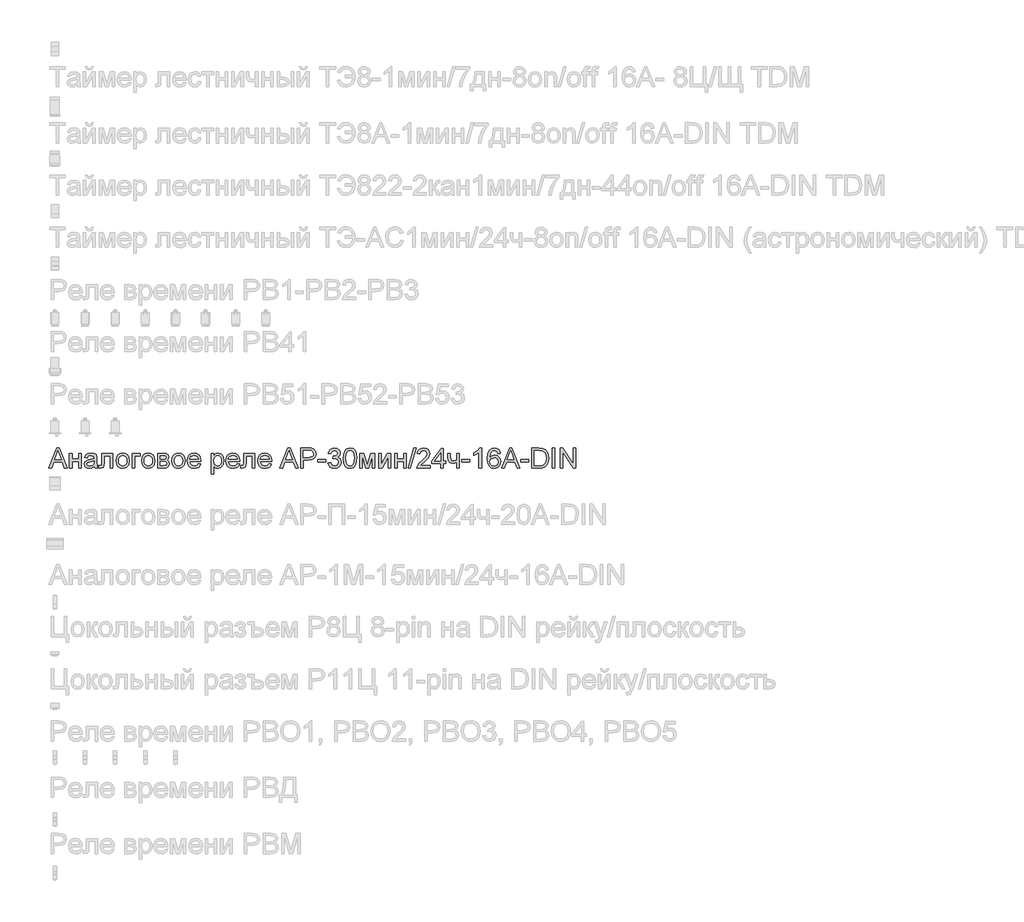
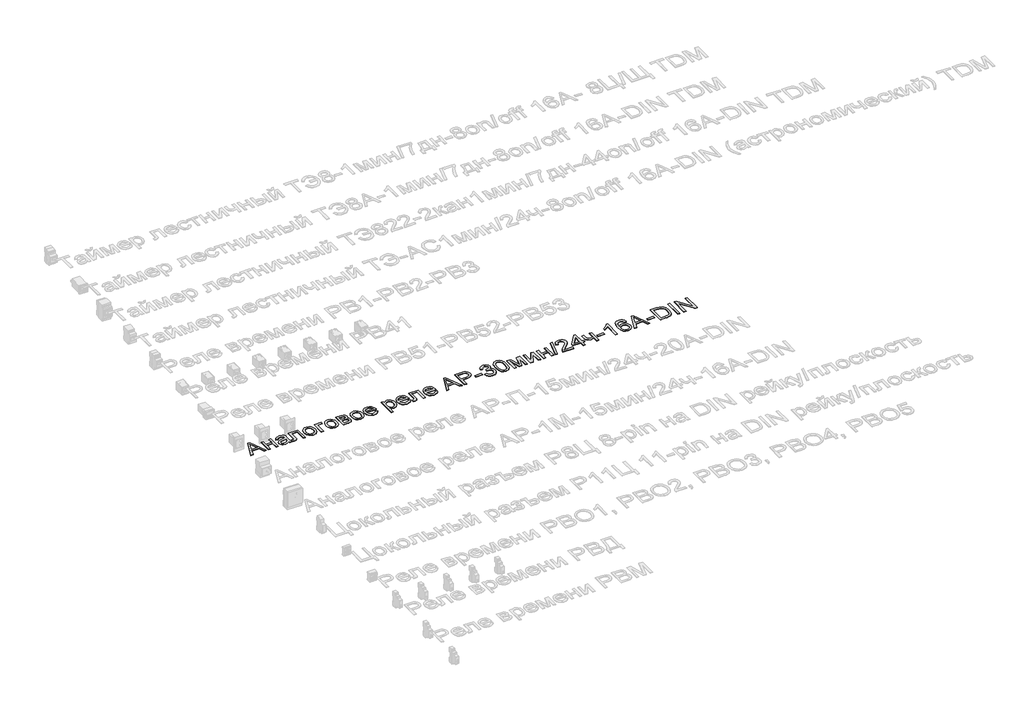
# One storey, part 23 of 34: 1 proxy.
"""IFC4 building model written with IfcOpenShell, lengths in millimetres."""

from ifc_helpers import new_model, si_unit, frame, origin, place, context, project, spatial, polyline, outline, extrude, element, save

model = new_model("IFC4")

# Units and contexts
model_context = context("Model", 3, world=origin())
ifc_project = project(units=[si_unit("LENGTHUNIT", "METRE", prefix="MILLI")], contexts=[model_context])

# Site, building, storey
site = spatial("IfcSite", under=ifc_project)
building = spatial("IfcBuilding", under=site)
storey = spatial("IfcBuildingStorey", under=building, Name="Этаж 01", Elevation=0.0)

# Proxy
placement = place(None, origin())
element("IfcBuildingElementProxy", 1, Name="Надпись на модели 1", ObjectType="Надпись на модели 1", at=placement, inside=storey, context=model_context, shape_type="SweptSolid", body=[
    extrude(outline(polyline([(-19050.7112385, 15956.235284), (-19010.612101, 16056.6915941), (-18999.9189977, 16056.6915941), (-18959.8198602, 15956.235284), (-18973.0881375, 15956.235284), (-18984.5905813, 15987.6278809), (-19025.965043, 15987.6278809), (-19037.4429612, 15956.235284), (-19050.7112385, 15956.235284)]), holes=[polyline([(-19021.3542553, 16000.1849197), (-18989.1768435, 16000.1849197), (-18998.2267405, 16024.8820643), (-19005.2655494, 16044.1345554), (-19011.5195433, 16027.0403053), (-19021.3542553, 16000.1849197)])]), frame((0.0, 0.0, 40.0), z_axis=(0.0, 0.0, 1.0), x_axis=(1.0, 0.0, 0.0)), (0.0, 0.0, 1.0), 2.0),
    extrude(outline(polyline([(-18947.97406, 16030.0078868), (-18935.4170212, 16030.0078868), (-18935.4170212, 16001.7545495), (-18902.4547945, 16001.7545495), (-18902.4547945, 16030.0078868), (-18889.8977557, 16030.0078868), (-18889.8977557, 15956.235284), (-18902.4547945, 15956.235284), (-18902.4547945, 15989.1975108), (-18935.4170212, 15989.1975108), (-18935.4170212, 15956.235284), (-18947.97406, 15956.235284), (-18947.97406, 16030.0078868)])), frame((0.0, 0.0, 40.0), z_axis=(0.0, 0.0, 1.0), x_axis=(1.0, 0.0, 0.0)), (0.0, 0.0, 1.0), 2.0),
    extrude(outline(polyline([(-18823.9733022, 15965.6530631), (-18836.1501962, 15957.1427262), (-18849.6024145, 15954.6656541), (-18860.0962484, 15956.1555762), (-18867.8370987, 15960.6253425), (-18872.6103676, 15967.4127653), (-18874.2014572, 15975.8556571), (-18871.7979615, 15985.7884709), (-18865.482654, 15992.998958), (-18856.6902743, 15997.1192364), (-18845.8254927, 15999.0076973), (-18824.0468786, 16003.3241794), (-18823.9733022, 16006.1200825), (-18827.4313929, 16015.3907088), (-18841.3128069, 16019.0204778), (-18854.0169984, 16016.6047194), (-18860.0747886, 16008.0330689), (-18872.6318274, 16009.6026988), (-18867.1994366, 16021.8654319), (-18856.2610786, 16029.0513936), (-18839.6941261, 16031.5775166), (-18824.4760742, 16029.3456992), (-18815.8798983, 16023.7416301), (-18812.0294001, 16015.2190306), (-18811.4162634, 16004.2316216), (-18811.4162634, 15988.6088996), (-18810.7786013, 15966.7934973), (-18808.2770037, 15956.235284), (-18820.8340425, 15956.235284), (-18823.9733022, 15965.6530631)]), holes=[polyline([(-18823.9733022, 15990.7671406), (-18844.2313374, 15986.9166424), (-18855.0348053, 15984.8810287), (-18859.9276358, 15981.5700907), (-18861.6444185, 15976.7385739), (-18857.9042849, 15969.9450197), (-18846.9291387, 15967.2226929), (-18834.2249471, 15970.2270625), (-18826.0334413, 15977.4988633), (-18824.0468786, 15987.210948), (-18823.9733022, 15990.7671406)])]), frame((0.0, 0.0, 40.0), z_axis=(0.0, 0.0, 1.0), x_axis=(1.0, 0.0, 0.0)), (0.0, 0.0, 1.0), 2.0),
    extrude(outline(polyline([(-18787.8718157, 16030.0078868), (-18731.3651412, 16030.0078868), (-18731.3651412, 15956.3088604), (-18743.92218, 15956.3088604), (-18743.92218, 16017.450848), (-18775.3147769, 16017.450848), (-18775.3147769, 15982.2568038), (-18776.1609055, 15966.0209451), (-18780.8084814, 15959.1660772), (-18791.7958903, 15956.235284), (-18801.9984843, 15956.8729461), (-18801.9984843, 15968.7923228), (-18796.3821525, 15968.7923228), (-18790.7045071, 15969.564875), (-18788.4359014, 15972.0174216), (-18787.8718157, 15982.9680423), (-18787.8718157, 16030.0078868)])), frame((0.0, 0.0, 40.0), z_axis=(0.0, 0.0, 1.0), x_axis=(1.0, 0.0, 0.0)), (0.0, 0.0, 1.0), 2.0),
    extrude(outline(polyline([(-18715.6688428, 15993.1215854), (-18712.9526474, 16010.9086798), (-18704.8040612, 16023.4105363), (-18694.7363573, 16029.5357715), (-18682.6820905, 16031.5775166), (-18669.4904553, 16029.0912475), (-18658.9537019, 16021.63244), (-18652.0467174, 16009.7897054), (-18649.7443892, 15994.151655), (-18653.8156167, 15971.8089551), (-18665.6736796, 15959.1660772), (-18682.6820905, 15954.6656541), (-18696.0331413, 15957.1427262), (-18706.557632, 15964.5739426), (-18713.3910401, 15976.6649975), (-18715.6688428, 15993.1215854)]), holes=[polyline([(-18703.111804, 15993.1461108), (-18701.6586701, 15981.7816229), (-18697.2992685, 15973.6851533), (-18690.7387062, 15968.838308), (-18682.6820905, 15967.2226929), (-18674.6622631, 15968.8475051), (-18668.1139635, 15973.7219415), (-18663.7545619, 15981.92571), (-18662.301428, 15993.5385183), (-18663.7637589, 16004.5719125), (-18668.1507517, 16012.5580175), (-18674.7082483, 16017.4048627), (-18682.6820905, 16019.0204778), (-18690.7387062, 16017.4109941), (-18697.2992685, 16012.5825429), (-18701.6586701, 16004.5044674), (-18703.111804, 15993.1461108)])]), frame((0.0, 0.0, 40.0), z_axis=(0.0, 0.0, 1.0), x_axis=(1.0, 0.0, 0.0)), (0.0, 0.0, 1.0), 2.0),
    extrude(outline(polyline([(-18635.6177206, 16030.0078868), (-18594.8073446, 16030.0078868), (-18594.8073446, 16017.450848), (-18623.0606819, 16017.450848), (-18623.0606819, 15956.235284), (-18635.6177206, 15956.235284), (-18635.6177206, 16030.0078868)])), frame((0.0, 0.0, 40.0), z_axis=(0.0, 0.0, 1.0), x_axis=(1.0, 0.0, 0.0)), (0.0, 0.0, 1.0), 2.0),
    extrude(outline(polyline([(-18588.5288253, 15993.1215854), (-18585.8126299, 16010.9086798), (-18577.6640437, 16023.4105363), (-18567.5963397, 16029.5357715), (-18555.542073, 16031.5775166), (-18542.3504378, 16029.0912475), (-18531.8136843, 16021.63244), (-18524.9066999, 16009.7897054), (-18522.6043717, 15994.151655), (-18526.6755991, 15971.8089551), (-18538.5336621, 15959.1660772), (-18555.542073, 15954.6656541), (-18568.8931238, 15957.1427262), (-18579.4176145, 15964.5739426), (-18586.2510226, 15976.6649975), (-18588.5288253, 15993.1215854)]), holes=[polyline([(-18575.9717865, 15993.1461108), (-18574.5186526, 15981.7816229), (-18570.159251, 15973.6851533), (-18563.5986887, 15968.838308), (-18555.542073, 15967.2226929), (-18547.5222455, 15968.8475051), (-18540.973946, 15973.7219415), (-18536.6145444, 15981.92571), (-18535.1614105, 15993.5385183), (-18536.6237414, 16004.5719125), (-18541.0107342, 16012.5580175), (-18547.5682308, 16017.4048627), (-18555.542073, 16019.0204778), (-18563.5986887, 16017.4109941), (-18570.159251, 16012.5825429), (-18574.5186526, 16004.5044674), (-18575.9717865, 15993.1461108)])]), frame((0.0, 0.0, 40.0), z_axis=(0.0, 0.0, 1.0), x_axis=(1.0, 0.0, 0.0)), (0.0, 0.0, 1.0), 2.0),
    extrude(outline(polyline([(-18508.4777031, 16030.0078868), (-18480.8129771, 16030.0078868), (-18465.6439761, 16028.3278923), (-18457.1091138, 16022.1720003), (-18453.5406585, 16011.4421087), (-18455.6988995, 16002.7233055), (-18462.1981481, 15996.5060997), (-18453.7613877, 15989.7002828), (-18450.4013988, 15977.8667453), (-18452.528983, 15968.2956821), (-18457.5873604, 15961.5573102), (-18465.5949252, 15957.5657905), (-18476.5700714, 15956.235284), (-18508.4777031, 15956.235284), (-18508.4777031, 16030.0078868)]), holes=[polyline([(-18495.9206643, 15968.7923228), (-18480.5186715, 15968.7923228), (-18466.8579867, 15971.0609284), (-18462.9584376, 15978.8968149), (-18465.1044159, 15984.9423424), (-18470.6962222, 15988.4617468), (-18481.7449448, 15989.1975108), (-18495.9206643, 15989.1975108), (-18495.9206643, 15968.7923228)]), polyline([(-18495.9206643, 16001.7545495), (-18483.5107784, 16001.7545495), (-18473.2713962, 16002.3922117), (-18468.2927265, 16004.9428602), (-18466.0976973, 16009.5536478), (-18469.9481955, 16015.7095399), (-18483.1183709, 16017.450848), (-18495.9206643, 16017.450848), (-18495.9206643, 16001.7545495)])]), frame((0.0, 0.0, 40.0), z_axis=(0.0, 0.0, 1.0), x_axis=(1.0, 0.0, 0.0)), (0.0, 0.0, 1.0), 2.0),
    extrude(outline(polyline([(-18437.84436, 15993.1215854), (-18435.1281646, 16010.9086798), (-18426.9795784, 16023.4105363), (-18416.9118745, 16029.5357715), (-18404.8576078, 16031.5775166), (-18391.6659726, 16029.0912475), (-18381.1292191, 16021.63244), (-18374.2222346, 16009.7897054), (-18371.9199065, 15994.151655), (-18375.9911339, 15971.8089551), (-18387.8491969, 15959.1660772), (-18404.8576078, 15954.6656541), (-18418.2086585, 15957.1427262), (-18428.7331493, 15964.5739426), (-18435.5665573, 15976.6649975), (-18437.84436, 15993.1215854)]), holes=[polyline([(-18425.2873213, 15993.1461108), (-18423.8341874, 15981.7816229), (-18419.4747857, 15973.6851533), (-18412.9142235, 15968.838308), (-18404.8576078, 15967.2226929), (-18396.8377803, 15968.8475051), (-18390.2894808, 15973.7219415), (-18385.9300791, 15981.92571), (-18384.4769453, 15993.5385183), (-18385.9392762, 16004.5719125), (-18390.326269, 16012.5580175), (-18396.8837655, 16017.4048627), (-18404.8576078, 16019.0204778), (-18412.9142235, 16017.4109941), (-18419.4747857, 16012.5825429), (-18423.8341874, 16004.5044674), (-18425.2873213, 15993.1461108)])]), frame((0.0, 0.0, 40.0), z_axis=(0.0, 0.0, 1.0), x_axis=(1.0, 0.0, 0.0)), (0.0, 0.0, 1.0), 2.0),
    extrude(outline(polyline([(-18306.1426058, 15978.2101018), (-18293.8308216, 15976.640472), (-18298.2668654, 15967.3637143), (-18305.3455281, 15960.4291387), (-18314.9073943, 15956.1065253), (-18326.7930484, 15954.6656541), (-18341.5267223, 15957.1519233), (-18352.8636191, 15964.6107308), (-18360.0925003, 15976.5576985), (-18362.5021274, 15992.5084487), (-18360.0679749, 16008.9956935), (-18352.7655173, 16021.3258717), (-18341.5819046, 16029.0146054), (-18327.5042869, 16031.5775166), (-18313.865062, 16029.0207367), (-18302.9665579, 16021.3503971), (-18295.8204501, 16009.0447444), (-18293.4384142, 15992.5820251), (-18293.5119906, 15989.1975108), (-18349.9450886, 15989.1975108), (-18347.7715192, 15979.7981258), (-18342.7223388, 15972.8880756), (-18335.4352096, 15968.6390386), (-18326.5477938, 15967.2226929), (-18314.2360096, 15969.8469178), (-18306.1426058, 15978.2101018)]), holes=[polyline([(-18349.9450886, 16001.7545495), (-18305.995453, 16001.7545495), (-18311.0231736, 16013.1343659), (-18318.3440253, 16017.5489499), (-18327.5533379, 16019.0204778), (-18343.0166444, 16014.323851), (-18347.8818838, 16008.8332123), (-18349.9450886, 16001.7545495)])]), frame((0.0, 0.0, 40.0), z_axis=(0.0, 0.0, 1.0), x_axis=(1.0, 0.0, 0.0)), (0.0, 0.0, 1.0), 2.0),
    extrude(outline(polyline([(-18241.6406293, 15927.9819468), (-18241.6406293, 16030.0078868), (-18229.0835905, 16030.0078868), (-18229.0835905, 16017.6961027), (-18220.4015754, 16028.1071631), (-18208.6784025, 16031.5775166), (-18192.7613748, 16026.7214743), (-18182.3625771, 16013.036264), (-18178.8554354, 15993.6856711), (-18182.8162982, 15973.3417968), (-18194.318742, 15959.4849083), (-18210.1989814, 15954.6656541), (-18221.1250767, 15957.890753), (-18229.0835905, 15966.0454705), (-18229.0835905, 15927.9819468), (-18241.6406293, 15927.9819468)]), holes=[polyline([(-18229.0835905, 15992.5329742), (-18227.7254928, 15981.2757851), (-18223.6511997, 15973.4031104), (-18217.6393948, 15968.7677973), (-18210.4687615, 15967.2226929), (-18203.1816324, 15968.8229796), (-18197.0165432, 15973.6238396), (-18192.8134915, 15981.7846886), (-18191.4124742, 15993.4649419), (-18192.7797689, 16004.6608173), (-18196.8816532, 16012.6438566), (-18202.8842611, 16017.4263225), (-18209.9537267, 16019.0204778), (-18217.0507836, 16017.325155), (-18223.2833177, 16012.2391864), (-18227.6335223, 16003.9219876), (-18229.0835905, 15992.5329742)])]), frame((0.0, 0.0, 40.0), z_axis=(0.0, 0.0, 1.0), x_axis=(1.0, 0.0, 0.0)), (0.0, 0.0, 1.0), 2.0),
    extrude(outline(polyline([(-18113.0781347, 15978.2101018), (-18100.7663506, 15976.640472), (-18105.2023943, 15967.3637143), (-18112.281057, 15960.4291387), (-18121.8429232, 15956.1065253), (-18133.7285773, 15954.6656541), (-18148.4622513, 15957.1519233), (-18159.7991481, 15964.6107308), (-18167.0280293, 15976.5576985), (-18169.4376563, 15992.5084487), (-18167.0035038, 16008.9956935), (-18159.7010462, 16021.3258717), (-18148.5174336, 16029.0146054), (-18134.4398159, 16031.5775166), (-18120.8005909, 16029.0207367), (-18109.9020868, 16021.3503971), (-18102.755979, 16009.0447444), (-18100.3739431, 15992.5820251), (-18100.4475195, 15989.1975108), (-18156.8806176, 15989.1975108), (-18154.7070481, 15979.7981258), (-18149.6578677, 15972.8880756), (-18142.3707385, 15968.6390386), (-18133.4833227, 15967.2226929), (-18121.1715386, 15969.8469178), (-18113.0781347, 15978.2101018)]), holes=[polyline([(-18156.8806176, 16001.7545495), (-18112.9309819, 16001.7545495), (-18117.9587025, 16013.1343659), (-18125.2795542, 16017.5489499), (-18134.4888668, 16019.0204778), (-18149.9521733, 16014.323851), (-18154.8174127, 16008.8332123), (-18156.8806176, 16001.7545495)])]), frame((0.0, 0.0, 40.0), z_axis=(0.0, 0.0, 1.0), x_axis=(1.0, 0.0, 0.0)), (0.0, 0.0, 1.0), 2.0),
    extrude(outline(polyline([(-18081.538385, 16030.0078868), (-18025.0317105, 16030.0078868), (-18025.0317105, 15956.3088604), (-18037.5887493, 15956.3088604), (-18037.5887493, 16017.450848), (-18068.9813462, 16017.450848), (-18068.9813462, 15982.2568038), (-18069.8274748, 15966.0209451), (-18074.4750507, 15959.1660772), (-18085.4624596, 15956.235284), (-18095.6650536, 15956.8729461), (-18095.6650536, 15968.7923228), (-18090.0487218, 15968.7923228), (-18084.3710763, 15969.564875), (-18082.1024707, 15972.0174216), (-18081.538385, 15982.9680423), (-18081.538385, 16030.0078868)])), frame((0.0, 0.0, 40.0), z_axis=(0.0, 0.0, 1.0), x_axis=(1.0, 0.0, 0.0)), (0.0, 0.0, 1.0), 2.0),
    extrude(outline(polyline([(-17954.5455202, 15978.2101018), (-17942.2337361, 15976.640472), (-17946.6697798, 15967.3637143), (-17953.7484426, 15960.4291387), (-17963.3103088, 15956.1065253), (-17975.1959629, 15954.6656541), (-17989.9296368, 15957.1519233), (-18001.2665336, 15964.6107308), (-18008.4954148, 15976.5576985), (-18010.9050419, 15992.5084487), (-18008.4708894, 16008.9956935), (-18001.1684318, 16021.3258717), (-17989.9848191, 16029.0146054), (-17975.9072014, 16031.5775166), (-17962.2679764, 16029.0207367), (-17951.3694723, 16021.3503971), (-17944.2233646, 16009.0447444), (-17941.8413287, 15992.5820251), (-17941.9149051, 15989.1975108), (-17998.3480031, 15989.1975108), (-17996.1744337, 15979.7981258), (-17991.1252533, 15972.8880756), (-17983.8381241, 15968.6390386), (-17974.9507082, 15967.2226929), (-17962.6389241, 15969.8469178), (-17954.5455202, 15978.2101018)]), holes=[polyline([(-17998.3480031, 16001.7545495), (-17954.3983674, 16001.7545495), (-17959.426088, 16013.1343659), (-17966.7469397, 16017.5489499), (-17975.9562523, 16019.0204778), (-17991.4195589, 16014.323851), (-17996.2847983, 16008.8332123), (-17998.3480031, 16001.7545495)])]), frame((0.0, 0.0, 40.0), z_axis=(0.0, 0.0, 1.0), x_axis=(1.0, 0.0, 0.0)), (0.0, 0.0, 1.0), 2.0),
    extrude(outline(polyline([(-17900.1725613, 15956.235284), (-17860.0734239, 16056.6915941), (-17849.3803205, 16056.6915941), (-17809.2811831, 15956.235284), (-17822.5494604, 15956.235284), (-17834.0519041, 15987.6278809), (-17875.4263658, 15987.6278809), (-17886.904284, 15956.235284), (-17900.1725613, 15956.235284)]), holes=[polyline([(-17870.8155781, 16000.1849197), (-17838.6381663, 16000.1849197), (-17847.6880634, 16024.8820643), (-17854.7268722, 16044.1345554), (-17860.9808661, 16027.0403053), (-17870.8155781, 16000.1849197)])]), frame((0.0, 0.0, 40.0), z_axis=(0.0, 0.0, 1.0), x_axis=(1.0, 0.0, 0.0)), (0.0, 0.0, 1.0), 2.0),
    extrude(outline(polyline([(-17795.865753, 15956.235284), (-17795.865753, 16056.6915941), (-17758.6360951, 16056.6915941), (-17743.6265097, 16055.735101), (-17731.4250902, 16051.0384742), (-17723.5156273, 16041.3263895), (-17720.5235204, 16027.6289165), (-17722.5438057, 16015.7892476), (-17728.6046615, 16005.9238788), (-17739.9384927, 15999.2652147), (-17757.7777037, 15997.04566), (-17783.3087142, 15997.04566), (-17783.3087142, 15956.235284), (-17795.865753, 15956.235284)]), holes=[polyline([(-17783.3087142, 16009.6026988), (-17757.0419398, 16009.6026988), (-17738.5497381, 16014.2134864), (-17734.4478539, 16019.7623732), (-17733.0805591, 16027.1874581), (-17736.305658, 16037.5862559), (-17744.7792066, 16043.2761641), (-17757.3362453, 16044.1345554), (-17783.3087142, 16044.1345554), (-17783.3087142, 16009.6026988)])]), frame((0.0, 0.0, 40.0), z_axis=(0.0, 0.0, 1.0), x_axis=(1.0, 0.0, 0.0)), (0.0, 0.0, 1.0), 2.0),
    extrude(outline(polyline([(-17711.1057413, 15986.0582511), (-17711.1057413, 15998.6152898), (-17671.8649951, 15998.6152898), (-17671.8649951, 15986.0582511), (-17711.1057413, 15986.0582511)])), frame((0.0, 0.0, 40.0), z_axis=(0.0, 0.0, 1.0), x_axis=(1.0, 0.0, 0.0)), (0.0, 0.0, 1.0), 2.0),
    extrude(outline(polyline([(-17660.8775862, 15982.9189914), (-17648.3205474, 15984.4886212), (-17641.3921032, 15971.2693949), (-17628.4303942, 15967.2226929), (-17619.8219556, 15968.6145131), (-17613.1755542, 15972.7899738), (-17607.5101714, 15986.5732859), (-17613.1265032, 15999.5595203), (-17627.4003247, 16004.6976055), (-17636.2049671, 16003.3241794), (-17634.8070155, 16015.8812181), (-17632.7959272, 16015.7340653), (-17618.5466313, 16019.3393089), (-17613.8009536, 16023.9133084), (-17612.219061, 16030.4248197), (-17616.8053232, 16040.247269), (-17628.626598, 16044.1345554), (-17640.5950255, 16040.2104808), (-17646.7509176, 16028.4382569), (-17659.3079564, 16030.0078868), (-17655.6107423, 16041.2834699), (-17649.031786, 16049.7018362), (-17640.0309398, 16054.9441547), (-17629.0680564, 16056.6915941), (-17613.9235809, 16053.2457661), (-17603.3285794, 16043.827987), (-17599.6620222, 16031.1605837), (-17603.1446384, 16019.5845636), (-17613.4453343, 16011.2704305), (-17599.7601241, 16002.6865173), (-17594.9531327, 15986.3525567), (-17597.3566284, 15974.114349), (-17604.5671155, 15963.8872295), (-17615.4502912, 15956.971048), (-17628.8718526, 15954.6656541), (-17641.0119585, 15956.6338228), (-17650.8957214, 15962.5383288), (-17657.7689834, 15971.5698318), (-17660.8775862, 15982.9189914)])), frame((0.0, 0.0, 40.0), z_axis=(0.0, 0.0, 1.0), x_axis=(1.0, 0.0, 0.0)), (0.0, 0.0, 1.0), 2.0),
    extrude(outline(polyline([(-17583.9657238, 16005.6540987), (-17580.2746411, 16034.5573608), (-17569.3117576, 16051.2224151), (-17551.003497, 16056.6915941), (-17536.3372681, 16053.4542326), (-17526.2082505, 16044.1222926), (-17520.3221386, 16029.25986), (-17518.0412702, 16005.6540987), (-17521.6955647, 15976.8734639), (-17532.62166, 15960.1716213), (-17540.8530196, 15956.0421459), (-17551.003497, 15954.6656541), (-17564.0510451, 15957.0568871), (-17573.9593335, 15964.230586), (-17581.4641262, 15981.2206028), (-17583.9657238, 16005.6540987)]), holes=[polyline([(-17571.408685, 16005.6786241), (-17569.937157, 15985.9264267), (-17565.5225731, 15974.4944937), (-17558.9497481, 15969.0406431), (-17551.003497, 15967.2226929), (-17543.0572459, 15969.0467745), (-17536.4844209, 15974.5190192), (-17532.069837, 15985.9570835), (-17530.598309, 16005.6786241), (-17532.020786, 16024.9862975), (-17536.2882172, 16036.5071353), (-17542.8487794, 16042.2277004), (-17551.1506498, 16044.1345554), (-17559.0110617, 16042.4545609), (-17565.3263693, 16037.4145776), (-17569.8881061, 16025.1763699), (-17571.408685, 16005.6786241)])]), frame((0.0, 0.0, 40.0), z_axis=(0.0, 0.0, 1.0), x_axis=(1.0, 0.0, 0.0)), (0.0, 0.0, 1.0), 2.0),
    extrude(outline(polyline([(-17503.9146016, 16030.0078868), (-17482.3076658, 16030.0078868), (-17465.6548741, 15970.9505638), (-17447.7022327, 16030.0078868), (-17427.0027391, 16030.0078868), (-17427.0027391, 15956.235284), (-17439.5597779, 15956.235284), (-17439.5597779, 16015.6359635), (-17457.6105211, 15956.235284), (-17474.0916345, 15956.235284), (-17491.3575628, 16018.4809176), (-17491.3575628, 15956.235284), (-17503.9146016, 15956.235284), (-17503.9146016, 16030.0078868)])), frame((0.0, 0.0, 40.0), z_axis=(0.0, 0.0, 1.0), x_axis=(1.0, 0.0, 0.0)), (0.0, 0.0, 1.0), 2.0),
    extrude(outline(polyline([(-17408.167181, 16030.0078868), (-17395.6101422, 16030.0078868), (-17395.6101422, 15973.746467), (-17364.7571056, 16030.0078868), (-17348.5212468, 16030.0078868), (-17348.5212468, 15956.235284), (-17361.0782856, 15956.235284), (-17361.0782856, 16012.1533473), (-17391.7351185, 15956.235284), (-17408.167181, 15956.235284), (-17408.167181, 16030.0078868)])), frame((0.0, 0.0, 40.0), z_axis=(0.0, 0.0, 1.0), x_axis=(1.0, 0.0, 0.0)), (0.0, 0.0, 1.0), 2.0),
    extrude(outline(polyline([(-17329.6856887, 16030.0078868), (-17317.1286499, 16030.0078868), (-17317.1286499, 16001.7545495), (-17284.1664232, 16001.7545495), (-17284.1664232, 16030.0078868), (-17271.6093844, 16030.0078868), (-17271.6093844, 15956.235284), (-17284.1664232, 15956.235284), (-17284.1664232, 15989.1975108), (-17317.1286499, 15989.1975108), (-17317.1286499, 15956.235284), (-17329.6856887, 15956.235284), (-17329.6856887, 16030.0078868)])), frame((0.0, 0.0, 40.0), z_axis=(0.0, 0.0, 1.0), x_axis=(1.0, 0.0, 0.0)), (0.0, 0.0, 1.0), 2.0),
    extrude(outline(polyline([(-17262.1916053, 15956.235284), (-17233.9382681, 16056.6915941), (-17222.6075026, 16056.6915941), (-17250.8608399, 15956.235284), (-17262.1916053, 15956.235284)])), frame((0.0, 0.0, 40.0), z_axis=(0.0, 0.0, 1.0), x_axis=(1.0, 0.0, 0.0)), (0.0, 0.0, 1.0), 2.0),
    extrude(outline(polyline([(-17152.3175161, 15968.7923228), (-17152.3175161, 15956.235284), (-17218.2419696, 15956.235284), (-17216.893069, 15964.8927736), (-17209.2656489, 15978.2223646), (-17193.544825, 15992.7782288), (-17171.8643128, 16013.6984516), (-17166.4441847, 16027.9232221), (-17171.5577444, 16039.4379286), (-17184.9118609, 16044.1345554), (-17198.830063, 16039.5482932), (-17204.115301, 16026.8686271), (-17216.6723398, 16028.4382569), (-17213.6281163, 16040.5844941), (-17207.0460942, 16049.4565816), (-17197.2696302, 16054.882841), (-17184.6420807, 16056.6915941), (-17171.9225607, 16054.6805059), (-17162.1644908, 16048.6472412), (-17155.9564821, 16039.6341323), (-17153.8871459, 16028.6835116), (-17156.1189634, 16016.7763977), (-17163.5379169, 16004.4646136), (-17181.5273465, 15987.2599989), (-17195.9728462, 15975.1812067), (-17201.6382289, 15968.7923228), (-17152.3175161, 15968.7923228)])), frame((0.0, 0.0, 40.0), z_axis=(0.0, 0.0, 1.0), x_axis=(1.0, 0.0, 0.0)), (0.0, 0.0, 1.0), 2.0),
    extrude(outline(polyline([(-17098.9501013, 15956.235284), (-17098.9501013, 15979.7797317), (-17144.4693668, 15979.7797317), (-17144.4693668, 15992.3367705), (-17095.8108416, 16055.1219643), (-17086.3930625, 16055.1219643), (-17086.3930625, 15992.3367705), (-17073.8360238, 15992.3367705), (-17073.8360238, 15979.7797317), (-17086.3930625, 15979.7797317), (-17086.3930625, 15956.235284), (-17098.9501013, 15956.235284)]), holes=[polyline([(-17098.9501013, 15992.3367705), (-17098.9501013, 16031.1360582), (-17129.0183231, 15992.3367705), (-17098.9501013, 15992.3367705)])]), frame((0.0, 0.0, 40.0), z_axis=(0.0, 0.0, 1.0), x_axis=(1.0, 0.0, 0.0)), (0.0, 0.0, 1.0), 2.0),
    extrude(outline(polyline([(-17064.4182447, 16030.0078868), (-17051.8612059, 16030.0078868), (-17051.8612059, 16015.8566927), (-17050.8433991, 16002.5884154), (-17045.9505685, 15995.4024537), (-17036.2384839, 15992.3367705), (-17018.8989792, 15996.1382177), (-17018.8989792, 16030.0078868), (-17006.3419404, 16030.0078868), (-17006.3419404, 15956.235284), (-17018.8989792, 15956.235284), (-17018.8989792, 15984.0962138), (-17039.5984728, 15979.7797317), (-17053.835506, 15984.2801548), (-17062.2109527, 15995.3043519), (-17064.4182447, 16009.6517497), (-17064.4182447, 16030.0078868)])), frame((0.0, 0.0, 40.0), z_axis=(0.0, 0.0, 1.0), x_axis=(1.0, 0.0, 0.0)), (0.0, 0.0, 1.0), 2.0),
    extrude(outline(polyline([(-16993.7849016, 15986.0582511), (-16993.7849016, 15998.6152898), (-16954.5441555, 15998.6152898), (-16954.5441555, 15986.0582511), (-16993.7849016, 15986.0582511)])), frame((0.0, 0.0, 40.0), z_axis=(0.0, 0.0, 1.0), x_axis=(1.0, 0.0, 0.0)), (0.0, 0.0, 1.0), 2.0),
    extrude(outline(polyline([(-16896.4678512, 15956.235284), (-16909.0248899, 15956.235284), (-16909.0248899, 16034.5205726), (-16920.9197411, 16026.0470239), (-16934.1389675, 16019.7071909), (-16934.1389675, 16031.5775166), (-16915.732605, 16043.325215), (-16904.5612551, 16056.6915941), (-16896.4678512, 16056.6915941), (-16896.4678512, 15956.235284)])), frame((0.0, 0.0, 40.0), z_axis=(0.0, 0.0, 1.0), x_axis=(1.0, 0.0, 0.0)), (0.0, 0.0, 1.0), 2.0),
    extrude(outline(polyline([(-16802.2900604, 16030.0078868), (-16814.8470992, 16028.4382569), (-16819.6050396, 16038.910631), (-16832.1866039, 16044.1345554), (-16843.5173693, 16041.0933975), (-16852.0890198, 16029.676793), (-16855.6574752, 16007.2973049), (-16844.5842271, 16017.3159579), (-16830.8622287, 16020.5901077), (-16819.2616831, 16018.3521589), (-16809.525073, 16011.6383125), (-16802.9215912, 16001.3805362), (-16800.7204306, 15988.5107977), (-16804.8652344, 15971.1835557), (-16816.2695762, 15958.9208226), (-16832.7261641, 15954.6656541), (-16846.9723944, 15957.4860828), (-16858.3184883, 15965.9473687), (-16865.7405075, 15980.8833777), (-16868.2145139, 16003.1279756), (-16865.4676617, 16028.13782), (-16857.227105, 16045.2382014), (-16845.9760473, 16053.8282459), (-16831.401789, 16056.6915941), (-16820.3837232, 16054.9196292), (-16811.5606867, 16049.6037344), (-16805.3802692, 16041.1608426), (-16802.2900604, 16030.0078868)]), holes=[polyline([(-16855.6574752, 15988.7070014), (-16852.7512074, 15977.8299571), (-16845.0256855, 15969.9327569), (-16833.7071828, 15967.2226929), (-16825.4206408, 15968.6267759), (-16818.9060639, 15972.8390247), (-16814.684618, 15979.4609006), (-16813.2774693, 15988.0938648), (-16814.6662239, 15996.3804067), (-16818.8324875, 16002.69878), (-16825.457429, 16006.6994967), (-16834.2222176, 16008.0330689), (-16849.415744, 16002.69878), (-16854.0970424, 15996.5336909), (-16855.6574752, 15988.7070014)])]), frame((0.0, 0.0, 40.0), z_axis=(0.0, 0.0, 1.0), x_axis=(1.0, 0.0, 0.0)), (0.0, 0.0, 1.0), 2.0),
    extrude(outline(polyline([(-16796.7227795, 15956.235284), (-16756.6236421, 16056.6915941), (-16745.9305387, 16056.6915941), (-16705.8314013, 15956.235284), (-16719.0996786, 15956.235284), (-16730.6021223, 15987.6278809), (-16771.976584, 15987.6278809), (-16783.4545022, 15956.235284), (-16796.7227795, 15956.235284)]), holes=[polyline([(-16767.3657963, 16000.1849197), (-16735.1883845, 16000.1849197), (-16744.2382816, 16024.8820643), (-16751.2770904, 16044.1345554), (-16757.5310843, 16027.0403053), (-16767.3657963, 16000.1849197)])]), frame((0.0, 0.0, 40.0), z_axis=(0.0, 0.0, 1.0), x_axis=(1.0, 0.0, 0.0)), (0.0, 0.0, 1.0), 2.0),
    extrude(outline(polyline([(-16700.2641204, 15986.0582511), (-16700.2641204, 15998.6152898), (-16661.0233743, 15998.6152898), (-16661.0233743, 15986.0582511), (-16700.2641204, 15986.0582511)])), frame((0.0, 0.0, 40.0), z_axis=(0.0, 0.0, 1.0), x_axis=(1.0, 0.0, 0.0)), (0.0, 0.0, 1.0), 2.0),
    extrude(outline(polyline([(-16645.3270758, 15956.235284), (-16645.3270758, 16056.6915941), (-16610.6725918, 16056.6915941), (-16592.7444759, 16055.2445916), (-16577.9801452, 16048.05863), (-16566.085294, 16030.8908035), (-16562.136694, 16007.0029993), (-16564.8099698, 15986.7327014), (-16571.6771004, 15972.1032607), (-16580.8496248, 15962.99205), (-16592.8548405, 15957.9520666), (-16609.0048601, 15956.235284), (-16645.3270758, 15956.235284)]), holes=[polyline([(-16632.770037, 15968.7923228), (-16610.5499645, 15968.7923228), (-16594.3876822, 15970.6072073), (-16585.068005, 15975.7330297), (-16577.4283222, 15988.2042294), (-16574.6937327, 16007.1992031), (-16576.0334363, 16020.8844133), (-16580.0525471, 16030.9889054), (-16593.0878325, 16042.1234671), (-16610.893321, 16044.1345554), (-16632.770037, 16044.1345554), (-16632.770037, 15968.7923228)])]), frame((0.0, 0.0, 40.0), z_axis=(0.0, 0.0, 1.0), x_axis=(1.0, 0.0, 0.0)), (0.0, 0.0, 1.0), 2.0),
    extrude(outline(polyline([(-16543.3011358, 15956.235284), (-16543.3011358, 16056.6915941), (-16530.744097, 16056.6915941), (-16530.744097, 15956.235284), (-16543.3011358, 15956.235284)])), frame((0.0, 0.0, 40.0), z_axis=(0.0, 0.0, 1.0), x_axis=(1.0, 0.0, 0.0)), (0.0, 0.0, 1.0), 2.0),
    extrude(outline(polyline([(-16505.6300195, 15956.235284), (-16505.6300195, 16056.6915941), (-16492.1900639, 16056.6915941), (-16439.705566, 15977.1064559), (-16439.705566, 16056.6915941), (-16427.1485272, 16056.6915941), (-16427.1485272, 15956.235284), (-16440.5884827, 15956.235284), (-16493.0729807, 16035.8449477), (-16493.0729807, 15956.235284), (-16505.6300195, 15956.235284)])), frame((0.0, 0.0, 40.0), z_axis=(0.0, 0.0, 1.0), x_axis=(1.0, 0.0, 0.0)), (0.0, 0.0, 1.0), 2.0),
])

save(model, "model.ifc")
